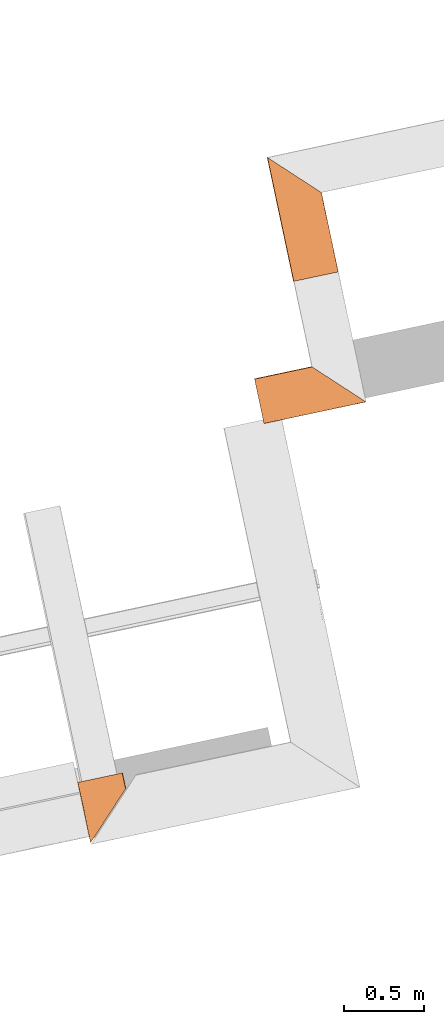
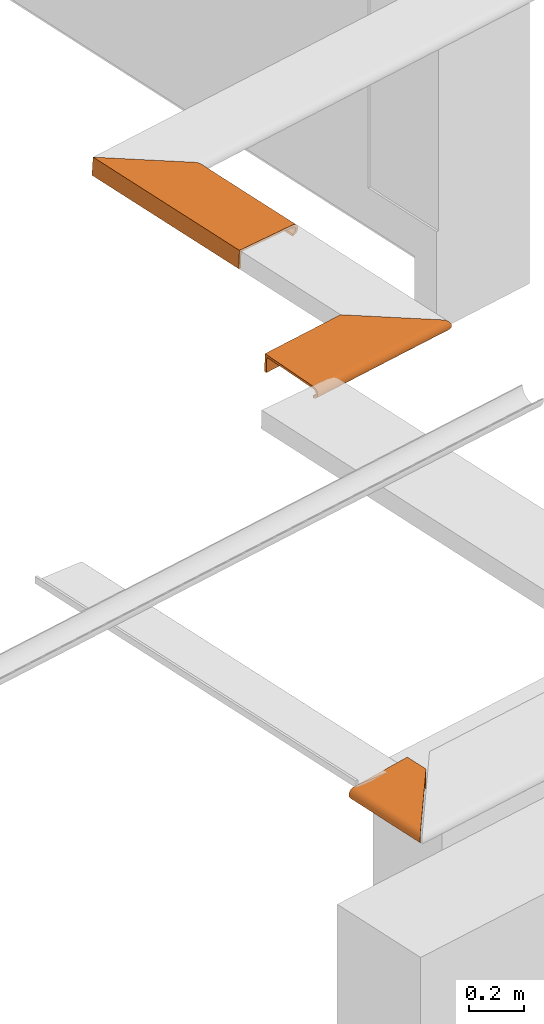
# One storey, part 21 of 22: 3 proxies.
"""IFC2X3 building model written with IfcOpenShell, lengths in centimetres."""

from ifc_helpers import new_model, entity, si_unit, converted_unit, derived_unit, direction, frame, origin, place, context, subcontext, project, spatial, faceted_brep, type_object, element, save


model = new_model("IFC2X3")

# Units and contexts
model_context = context("Model", 3, precision=0.001, world=origin(), true_north=direction((6.12303176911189e-17, 1.0)))
body_context = subcontext(model_context, "Body", "Model", "MODEL_VIEW")
ifc_project = project(units=[si_unit("LENGTHUNIT", "METRE", prefix="CENTI"), si_unit("AREAUNIT", "SQUARE_METRE"), si_unit("VOLUMEUNIT", "CUBIC_METRE"), converted_unit("PLANEANGLEUNIT", "DEGREE", entity("IfcRatioMeasure", 0.0174532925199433), si_unit("PLANEANGLEUNIT", "RADIAN"), dimensions=[0, 0, 0, 0, 0, 0, 0]), si_unit("MASSUNIT", "GRAM", prefix="KILO"), derived_unit("MASSDENSITYUNIT", [(si_unit("MASSUNIT", "GRAM", prefix="KILO"), 1), (si_unit("LENGTHUNIT", "METRE"), -3)]), derived_unit("IONCONCENTRATIONUNIT", [(si_unit("MASSUNIT", "GRAM", prefix="KILO"), 1), (si_unit("LENGTHUNIT", "METRE"), -3)]), derived_unit("MOMENTOFINERTIAUNIT", [(si_unit("LENGTHUNIT", "METRE"), 4)]), si_unit("TIMEUNIT", "SECOND"), si_unit("FREQUENCYUNIT", "HERTZ"), si_unit("THERMODYNAMICTEMPERATUREUNIT", "DEGREE_CELSIUS"), derived_unit("THERMALTRANSMITTANCEUNIT", [(si_unit("MASSUNIT", "GRAM", prefix="KILO"), 1), (si_unit("THERMODYNAMICTEMPERATUREUNIT", "KELVIN"), -1), (si_unit("TIMEUNIT", "SECOND"), -3)]), derived_unit("THERMALCONDUCTANCEUNIT", [(si_unit("MASSUNIT", "GRAM", prefix="KILO"), 1), (si_unit("THERMODYNAMICTEMPERATUREUNIT", "KELVIN"), -1), (si_unit("TIMEUNIT", "SECOND"), -3), (si_unit("LENGTHUNIT", "METRE"), 1)]), derived_unit("VOLUMETRICFLOWRATEUNIT", [(si_unit("LENGTHUNIT", "METRE"), 3), (si_unit("TIMEUNIT", "SECOND"), -1)]), derived_unit("MASSFLOWRATEUNIT", [(si_unit("MASSUNIT", "GRAM", prefix="KILO"), 1), (si_unit("TIMEUNIT", "SECOND"), -1)]), derived_unit("ROTATIONALFREQUENCYUNIT", [(si_unit("TIMEUNIT", "SECOND"), -1)]), si_unit("ELECTRICCURRENTUNIT", "AMPERE"), si_unit("ELECTRICVOLTAGEUNIT", "VOLT"), si_unit("POWERUNIT", "WATT"), si_unit("FORCEUNIT", "NEWTON", prefix="KILO"), si_unit("ILLUMINANCEUNIT", "LUX"), si_unit("LUMINOUSFLUXUNIT", "LUMEN"), si_unit("LUMINOUSINTENSITYUNIT", "CANDELA"), derived_unit("USERDEFINED", [(si_unit("MASSUNIT", "GRAM", prefix="KILO"), -1), (si_unit("LENGTHUNIT", "METRE"), -2), (si_unit("TIMEUNIT", "SECOND"), 3), (si_unit("LUMINOUSFLUXUNIT", "LUMEN"), 1)]), derived_unit("USERDEFINED", [(si_unit("MASSUNIT", "GRAM", prefix="KILO"), 1), (si_unit("TIMEUNIT", "SECOND"), -3), (si_unit("LENGTHUNIT", "METRE"), 3), (si_unit("ELECTRICCURRENTUNIT", "AMPERE"), -2)]), derived_unit("SOUNDPOWERUNIT", [(si_unit("MASSUNIT", "GRAM", prefix="KILO"), 1), (si_unit("TIMEUNIT", "SECOND"), -3), (si_unit("LENGTHUNIT", "METRE"), 2)]), derived_unit("SOUNDPRESSUREUNIT", [(si_unit("MASSUNIT", "GRAM", prefix="KILO"), 1), (si_unit("LENGTHUNIT", "METRE"), -1), (si_unit("TIMEUNIT", "SECOND"), -2)]), derived_unit("LINEARVELOCITYUNIT", [(si_unit("LENGTHUNIT", "METRE"), 1), (si_unit("TIMEUNIT", "SECOND"), -1)]), si_unit("PRESSUREUNIT", "PASCAL"), derived_unit("USERDEFINED", [(si_unit("MASSUNIT", "GRAM", prefix="KILO"), 1), (si_unit("LENGTHUNIT", "METRE"), -2), (si_unit("TIMEUNIT", "SECOND"), -2)]), derived_unit("LINEARFORCEUNIT", [(si_unit("MASSUNIT", "GRAM", prefix="KILO"), 1), (si_unit("TIMEUNIT", "SECOND"), -2)]), derived_unit("PLANARFORCEUNIT", [(si_unit("MASSUNIT", "GRAM", prefix="KILO"), 1), (si_unit("LENGTHUNIT", "METRE"), -1), (si_unit("TIMEUNIT", "SECOND"), -2)]), derived_unit("SPECIFICHEATCAPACITYUNIT", [(si_unit("THERMODYNAMICTEMPERATUREUNIT", "KELVIN"), -1), (si_unit("LENGTHUNIT", "METRE"), 2), (si_unit("TIMEUNIT", "SECOND"), -2)]), derived_unit("HEATINGVALUEUNIT", [(si_unit("LENGTHUNIT", "METRE"), 2), (si_unit("TIMEUNIT", "SECOND"), -2)]), derived_unit("VAPORPERMEABILITYUNIT", [(si_unit("LENGTHUNIT", "METRE"), -1), (si_unit("TIMEUNIT", "SECOND"), 1)]), derived_unit("DYNAMICVISCOSITYUNIT", [(si_unit("MASSUNIT", "GRAM", prefix="KILO"), 1), (si_unit("TIMEUNIT", "SECOND"), -1), (si_unit("LENGTHUNIT", "METRE"), -1)]), derived_unit("THERMALEXPANSIONCOEFFICIENTUNIT", [(si_unit("THERMODYNAMICTEMPERATUREUNIT", "KELVIN"), -1)]), derived_unit("MODULUSOFELASTICITYUNIT", [(si_unit("MASSUNIT", "GRAM", prefix="KILO"), 1), (si_unit("LENGTHUNIT", "METRE"), -1), (si_unit("TIMEUNIT", "SECOND"), -2)]), derived_unit("ISOTHERMALMOISTURECAPACITYUNIT", [(si_unit("LENGTHUNIT", "METRE"), 3), (si_unit("MASSUNIT", "GRAM", prefix="KILO"), -1)]), derived_unit("MOISTUREDIFFUSIVITYUNIT", [(si_unit("TIMEUNIT", "SECOND"), -1), (si_unit("LENGTHUNIT", "METRE"), 2)])], contexts=[model_context])

# Site, building, storey
site_placement = place(None, frame((14083.8920177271, -6853.25409548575, 6900.0), z_axis=(0.0, 0.0, 1.0), x_axis=(0.978188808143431, 0.207717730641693, 0.0)))
site = spatial("IfcSite", under=ifc_project, at=site_placement, Name="Surface", CompositionType="ELEMENT")
building_placement = place(site_placement, origin())
building = spatial("IfcBuilding", under=site, at=building_placement, CompositionType="ELEMENT")
storey_placement = place(building_placement, frame((0.0, 0.0, -17.0)))
storey = spatial("IfcBuildingStorey", under=building, at=storey_placement, Name="Rez de chaussée (SD)", CompositionType="ELEMENT", Elevation=-16.9999999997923)

# Proxies
building_element_proxy_type_1 = type_object("IfcBuildingElementProxyType", Name="5035191", PredefinedType="NOTDEFINED")
proxy_1_placement = place(storey_placement, frame((-6412.95504961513, 14554.9918981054, 335.37614245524)))
element("IfcBuildingElementProxy", 1, at=proxy_1_placement, inside=storey, type_object=building_element_proxy_type_1, Name="5035191", context=body_context, shape_type="Brep", body=[
    faceted_brep([(0.451911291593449, 0.450635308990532, 5.79784103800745), (0.223355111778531, 0.222079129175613, 5.18653976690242), (0.160803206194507, 0.15952722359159, 4.53691338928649), (0.268518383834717, 0.267242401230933, 3.89323286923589), (0.539160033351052, 0.537884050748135, 3.29936397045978), (0.954284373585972, 0.953008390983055, 2.79577787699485), (1.48560136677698, 1.48432538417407, 2.41679314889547), (2.0969026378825, 2.09562665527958, 2.18823696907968), (2.74652901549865, 2.7452530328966, 2.12568506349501), (2.71162951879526, 2.71035353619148, 3.12507589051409), (2.32185369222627, 2.32057770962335, 3.16260703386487), (1.95507292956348, 1.95379694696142, 3.29974074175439), (1.636282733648, 1.63500675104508, 3.52713157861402), (1.3872081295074, 1.38593214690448, 3.82928323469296), (1.2248231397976, 1.22354715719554, 4.18560457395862), (1.16019403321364, 1.15891805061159, 4.57181288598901), (1.19772517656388, 1.19644919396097, 4.96158871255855), (1.33485888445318, 1.33358290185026, 5.32836947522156), (1.56224972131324, 1.56097373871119, 5.64715967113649), (1.86440137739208, 1.86312539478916, 5.89623427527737), (2.22072271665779, 2.21944673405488, 6.05861926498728), (2.60693102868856, 2.60565504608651, 6.12324837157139), (27.591701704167, 27.590425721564, 6.99573578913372), (27.8359981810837, 27.8347221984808, 0.0), (28.8353890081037, 28.8341130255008, 0.0348994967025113), (28.5910925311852, 28.5898165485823, 7.03063528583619), (28.5561930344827, 28.5549170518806, 8.03002611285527), (2.57203153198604, 2.57075554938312, 7.12263919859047), (1.92835101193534, 1.92707502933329, 7.01492402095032), (1.33448211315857, 1.33320613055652, 6.74428237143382), (0.830896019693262, 0.829620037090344, 6.32915803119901), (1.40955740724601, 38.6405545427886, 2.45893864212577), (0.897909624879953, 38.6405545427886, 2.85002193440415), (0.503139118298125, 38.6405545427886, 3.35883398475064), (0.251443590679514, 38.6405545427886, 3.95161287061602), (0.15952722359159, 38.6405545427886, 4.58902399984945), (0.233491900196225, 38.6405545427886, 5.22877007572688), (0.468431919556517, 38.6405545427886, 5.82839777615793), (0.848759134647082, 38.6405545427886, 6.34811491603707), (1.3492369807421, 38.6405545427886, 6.75343115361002), (1.93665296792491, 38.6405545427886, 7.01744643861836), (2.57203153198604, 38.6405545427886, 7.12263919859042), (28.5561930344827, 38.6405545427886, 8.03002611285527), (28.5910925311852, 38.6405545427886, 7.03063528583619), (28.8353890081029, 38.6405545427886, 0.0348994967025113), (27.8359981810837, 38.6405545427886, 0.0), (27.5917017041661, 38.6405545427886, 6.99573578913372), (2.60693102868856, 38.6405545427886, 6.12324837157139), (2.22625760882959, 38.6405545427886, 6.0602997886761), (1.87424065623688, 38.6405545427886, 5.90232988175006), (1.57416646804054, 38.6405545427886, 5.65979142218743), (1.34588923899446, 38.6405545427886, 5.34873372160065), (1.20451090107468, 38.6405545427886, 4.98973848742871), (1.15938357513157, 38.6405545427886, 4.60655833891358), (1.21349110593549, 38.6405545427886, 4.22454521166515), (1.36325193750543, 38.6405545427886, 3.86897304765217), (1.59875633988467, 38.6405545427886, 3.56336573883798), (1.90442226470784, 38.6405545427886, 3.32794093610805), (2.26002641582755, 38.6405545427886, 3.17827266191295), (2.64065859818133, 38.6405545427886, 3.12446845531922), (2.67639451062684, 38.6405545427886, 3.12425976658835), (2.71162951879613, 38.6405545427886, 3.12507589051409), (2.74652901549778, 38.6405545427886, 2.12568506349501), (2.69366986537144, 38.6405545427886, 2.12439867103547), (2.64001679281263, 38.6405545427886, 2.12453784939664), (2.00412990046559, 38.6405545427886, 2.21153327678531), (2.60693102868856, 20.6231047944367, 6.12324837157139), (2.57203153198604, 21.182032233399, 7.12263919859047), (1.90226884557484, 20.2964491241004, 7.00679380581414), (1.48994875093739, 19.8526850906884, 6.83383717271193), (0.331572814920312, 20.014881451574, 5.53618076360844), (2.13256063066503, 20.7409923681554, 2.18027866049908), (2.74652901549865, 32.6405545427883, 2.12568506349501), (0.562490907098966, 19.2374973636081, 5.98558577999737), (1.08589192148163, 20.2338014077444, 6.56695627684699), (0.198523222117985, 19.7088822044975, 5.065381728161), (0.184874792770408, 20.0790372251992, 4.26734633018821), (0.684072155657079, 20.4770780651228, 3.09166322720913), (1.0080000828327, 20.1879797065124, 2.74712357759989), (1.69884398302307, 21.1665476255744, 2.31601089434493), (0.300586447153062, 19.8104723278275, 3.79557089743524), (2.71162951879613, 32.6405545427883, 3.12507589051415), (2.71162951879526, 17.6754540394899, 3.12507589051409), (2.41973681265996, 21.7889193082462, 3.14341268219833), (2.07739222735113, 21.0285997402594, 3.2416259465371), (1.47113734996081, 20.8653767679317, 3.70856593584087), (1.74398845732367, 20.8017833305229, 3.4357847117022), (1.27689150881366, 20.4603160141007, 4.04192394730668), (2.31949910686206, 23.7731076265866, 6.08517163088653), (1.26360932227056, 20.857502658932, 5.17380073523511), (1.1741035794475, 20.8607749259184, 4.41380484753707), (1.71637270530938, 20.8613372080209, 5.79074916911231), (1.16957572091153, 20.3080224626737, 4.79960541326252), (1.4499847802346, 20.3443066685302, 5.51163292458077), (2.04514872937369, 20.5151780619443, 5.99268047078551)], [[[0, 1, 2, 3, 4, 5, 6, 7, 8, 9, 10, 11, 12, 13, 14, 15, 16, 17, 18, 19, 20, 21, 22, 23, 24, 25, 26, 27, 28, 29, 30]], [[31, 32, 33, 34, 35, 36, 37, 38, 39, 40, 41, 42, 43, 44, 45, 46, 47, 48, 49, 50, 51, 52, 53, 54, 55, 56, 57, 58, 59, 60, 61, 62, 63, 64, 65]], [[22, 21, 66, 47, 46]], [[26, 25, 24, 44, 43, 42]], [[26, 42, 41, 67, 27]], [[67, 40, 68]], [[69, 40, 39]], [[37, 36, 70]], [[8, 71, 72]], [[38, 37, 73]], [[40, 69, 68]], [[74, 39, 38]], [[67, 68, 28]], [[70, 75, 1]], [[74, 69, 39]], [[41, 40, 67]], [[0, 30, 73]], [[73, 70, 0]], [[36, 35, 75]], [[37, 70, 73]], [[74, 38, 73]], [[0, 70, 1]], [[74, 30, 29]], [[75, 35, 76]], [[1, 75, 2]], [[73, 30, 74]], [[35, 34, 76]], [[77, 33, 32]], [[27, 67, 28]], [[28, 68, 69]], [[5, 77, 78]], [[64, 63, 72]], [[77, 32, 78]], [[71, 64, 72]], [[32, 31, 78]], [[79, 31, 65]], [[80, 77, 4]], [[78, 31, 79]], [[72, 63, 62]], [[3, 80, 4]], [[5, 4, 77]], [[29, 28, 69]], [[76, 80, 3]], [[79, 65, 71]], [[3, 2, 76]], [[70, 36, 75]], [[8, 7, 71]], [[75, 76, 2]], [[79, 7, 6]], [[34, 33, 80]], [[78, 6, 5]], [[7, 79, 71]], [[76, 34, 80]], [[80, 33, 77]], [[78, 79, 6]], [[64, 71, 65]], [[69, 74, 29]], [[8, 72, 62, 61, 81, 82, 9]], [[10, 9, 83]], [[58, 84, 83]], [[85, 86, 56]], [[87, 13, 85]], [[66, 21, 88, 47]], [[11, 86, 12]], [[11, 10, 84]], [[82, 81, 83, 9]], [[87, 14, 13]], [[61, 60, 81]], [[60, 59, 81]], [[17, 16, 89]], [[90, 54, 53]], [[19, 18, 91]], [[81, 59, 83]], [[12, 86, 85]], [[58, 57, 84]], [[86, 57, 56]], [[49, 91, 50]], [[56, 55, 85]], [[51, 89, 52]], [[55, 54, 87]], [[15, 14, 90]], [[92, 16, 15]], [[83, 84, 10]], [[17, 89, 93]], [[94, 19, 91]], [[58, 83, 59]], [[19, 94, 20]], [[47, 88, 48]], [[85, 55, 87]], [[18, 17, 93]], [[11, 84, 86]], [[48, 88, 94]], [[13, 12, 85]], [[87, 54, 90]], [[90, 53, 92]], [[52, 92, 53]], [[89, 51, 93]], [[14, 87, 90]], [[16, 92, 89]], [[51, 50, 93]], [[18, 93, 91]], [[49, 94, 91]], [[94, 49, 48]], [[91, 93, 50]], [[21, 20, 88]], [[89, 92, 52]], [[15, 90, 92]], [[94, 88, 20]], [[84, 57, 86]], [[23, 22, 46, 45]], [[24, 23, 45, 44]]]),
])
building_element_proxy_type_2 = type_object("IfcBuildingElementProxyType", Name="5035475", PredefinedType="NOTDEFINED")
proxy_2_placement = place(storey_placement, frame((-6216.50677757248, 14871.0604687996, 335.37614245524)))
element("IfcBuildingElementProxy", 2, at=proxy_2_placement, inside=storey, type_object=building_element_proxy_type_2, Name="5035475", context=body_context, shape_type="Brep", body=[
    faceted_brep([(26.1589944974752, 0.0, 3.12425976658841), (26.1237594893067, 0.0, 3.12507589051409), (26.0888599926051, 0.0, 2.12568506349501), (26.1417191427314, 0.0, 2.12439867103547), (26.1953722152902, 0.0, 2.12453784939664), (26.8312591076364, 0.0, 2.21153327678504), (27.4258316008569, 0.0, 2.45893864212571), (27.9374793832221, 0.0, 2.85002193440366), (28.3322498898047, 0.0, 3.35883398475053), (28.5839454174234, 0.0, 3.95161287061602), (28.6758617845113, 0.0, 4.58902399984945), (28.6018971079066, 0.0, 5.2287700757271), (28.3669570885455, 0.0, 5.82839777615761), (27.9866298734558, 0.0, 6.34811491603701), (27.4861520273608, 0.0, 6.75343115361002), (26.898736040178, 0.0, 7.01744643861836), (26.2633574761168, 0.0, 7.12263919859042), (0.279195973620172, 0.0, 8.03002611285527), (0.24429647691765, 0.0, 7.03063528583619), (0.0, 0.0, 0.0348994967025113), (0.999390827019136, 0.0, 0.0), (1.24368730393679, 0.0, 6.99573578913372), (26.2284579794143, 0.0, 6.12324837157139), (26.6091313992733, 0.0, 6.0602997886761), (26.961148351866, 0.0, 5.90232988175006), (27.2612225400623, 0.0, 5.65979142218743), (27.4894997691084, 0.0, 5.34873372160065), (27.6308781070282, 0.0, 4.98973848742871), (27.6760054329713, 0.0, 4.60655833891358), (27.6218979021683, 0.0, 4.22454521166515), (27.4721370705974, 0.0, 3.86897304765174), (27.2366326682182, 0.0, 3.56336573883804), (26.930966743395, 0.0, 3.32794093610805), (26.5753625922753, 0.0, 3.17827266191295), (26.1947304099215, 0.0, 3.12446845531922), (0.24429647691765, 78.9492620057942, 7.03063528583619), (0.279195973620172, 78.9143625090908, 8.03002611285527), (26.2633574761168, 52.930201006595, 7.12263919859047), (26.9070379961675, 52.2865204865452, 7.01492402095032), (27.5009068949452, 51.6926515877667, 6.74428237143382), (28.0044929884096, 51.1890654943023, 6.32915803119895), (28.3834777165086, 50.8100807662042, 5.79784103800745), (28.6120338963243, 50.5815245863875, 5.18653976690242), (28.6745858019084, 50.5189726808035, 4.53691338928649), (28.5668706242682, 50.6266878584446, 3.89323286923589), (28.2962289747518, 50.89732950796, 3.29936397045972), (27.8811046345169, 51.312453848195, 2.79577787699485), (27.3497876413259, 51.843770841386, 2.41679314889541), (26.7384863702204, 52.4550721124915, 2.18823696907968), (26.5104292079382, 52.683129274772, 2.16627756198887), (26.2996446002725, 52.8939138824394, 2.14598131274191), (26.1942522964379, 52.9993061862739, 2.13583318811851), (26.1415561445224, 53.0520023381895, 2.13075912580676), (26.0888599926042, 53.1046984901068, 2.12568506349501), (26.1237594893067, 53.0697989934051, 3.12507589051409), (26.1870022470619, 53.0065562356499, 3.13116547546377), (26.2502450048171, 52.9433134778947, 3.1372550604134), (26.3767305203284, 52.8168279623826, 3.14943423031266), (26.5135353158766, 52.6800231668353, 3.16260703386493), (26.8803160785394, 52.3132424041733, 3.29974074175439), (27.1991062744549, 51.994452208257, 3.52713157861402), (27.4481808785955, 51.7453776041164, 3.82928323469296), (27.6105658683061, 51.5829926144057, 4.18560457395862), (27.6751949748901, 51.5183635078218, 4.57181288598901), (27.637663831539, 51.5558946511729, 4.96158871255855), (27.5005301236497, 51.6930283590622, 5.32836947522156), (27.2731392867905, 51.9204191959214, 5.64715967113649), (26.9709876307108, 52.2225708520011, 5.89623427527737), (26.6146662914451, 52.5788921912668, 6.05861926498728), (26.2284579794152, 52.9651005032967, 6.12324837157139), (1.24368730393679, 77.9498711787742, 6.99573578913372), (0.999390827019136, 78.1941676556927, 0.0), (0.0, 79.193558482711, 0.0348994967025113), (27.1190163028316, 19.0199723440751, 5.79074916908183), (27.1270818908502, 37.1836040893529, 5.78418370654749), (27.385404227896, 25.786280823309, 5.51163292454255), (26.7904625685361, 26.2354148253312, 5.99258069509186), (27.5717796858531, 18.9441784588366, 5.17380073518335), (27.540147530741, 36.8655953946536, 4.00014437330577), (27.364251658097, 25.4433574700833, 3.70856593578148), (27.0436072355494, 37.0267590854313, 3.40046022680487), (27.6553365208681, 30.8147915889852, 4.37539485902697), (27.5584974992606, 18.9306957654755, 4.04192394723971), (27.6612854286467, 13.7674537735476, 4.41380484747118), (27.0914005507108, 18.9306485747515, 3.43578471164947), (26.7579967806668, 25.643680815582, 3.24162594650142), (27.6658132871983, 25.4950456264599, 4.79960541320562), (26.5173145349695, 18.0716430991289, 6.08483957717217), (26.5140353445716, 35.4289072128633, 6.08560169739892), (26.2284579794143, 25.9184740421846, 6.12324837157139), (26.4400575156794, 35.47030086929, 3.14756772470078), (27.5804769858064, 36.9193188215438, 5.15118187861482), (26.4407716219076, 17.8065606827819, 3.14769555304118), (26.1237594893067, 27.0466264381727, 3.12507589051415), (26.1237594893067, 53.0, 3.12507589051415), (26.0888599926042, 53.0, 2.12568506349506), (26.0888599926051, 34.9170446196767, 2.12568506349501), (26.5785486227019, 21.6808399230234, 2.15676631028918), (27.6943009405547, 23.0475970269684, 2.63793645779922), (28.1513168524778, 24.7839974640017, 3.0916632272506), (28.6505142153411, 24.7422850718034, 4.26734633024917), (28.4772649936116, 23.0449125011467, 3.64708492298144), (26.7411214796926, 19.8157878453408, 7.05947742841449), (27.7494970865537, 23.0913663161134, 6.56695627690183), (27.1365450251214, 25.1305757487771, 2.31601089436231), (27.2009811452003, 26.0343788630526, 6.90443328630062), (28.6595656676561, 21.8007253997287, 4.91128868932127), (28.5160100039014, 26.1953141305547, 5.50442461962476), (28.1935987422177, 25.328268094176, 6.10055437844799), (26.2633574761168, 26.4651005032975, 7.12263919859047)], [[[0, 1, 2, 3, 4, 5, 6, 7, 8, 9, 10, 11, 12, 13, 14, 15, 16, 17, 18, 19, 20, 21, 22, 23, 24, 25, 26, 27, 28, 29, 30, 31, 32, 33, 34]], [[35, 36, 37, 38, 39, 40, 41, 42, 43, 44, 45, 46, 47, 48, 49, 50, 51, 52, 53, 54, 55, 56, 57, 58, 59, 60, 61, 62, 63, 64, 65, 66, 67, 68, 69, 70, 71, 72]], [[73, 25, 24]], [[73, 74, 75]], [[67, 74, 76]], [[76, 68, 67]], [[26, 77, 27]], [[78, 61, 79]], [[26, 25, 75]], [[60, 80, 79]], [[73, 75, 25]], [[81, 82, 83]], [[84, 80, 85]], [[28, 27, 86]], [[83, 29, 28]], [[76, 87, 88]], [[88, 89, 69]], [[68, 76, 88]], [[90, 58, 57, 56, 55]], [[63, 86, 64]], [[65, 75, 66]], [[22, 87, 23]], [[77, 75, 91]], [[76, 74, 73]], [[92, 85, 90]], [[62, 81, 63]], [[62, 61, 78]], [[31, 30, 79]], [[77, 26, 75]], [[91, 64, 86]], [[31, 79, 84]], [[28, 86, 83]], [[0, 34, 93]], [[74, 66, 75]], [[33, 32, 85]], [[30, 29, 82]], [[73, 24, 76]], [[77, 86, 27]], [[81, 86, 63]], [[30, 82, 79]], [[93, 1, 0]], [[81, 78, 82]], [[60, 79, 61]], [[67, 66, 74]], [[91, 65, 64]], [[79, 80, 84]], [[59, 90, 85]], [[84, 32, 31]], [[92, 93, 34]], [[76, 24, 23]], [[93, 55, 54, 94]], [[80, 60, 59]], [[84, 85, 32]], [[80, 59, 85]], [[92, 33, 85]], [[65, 91, 75]], [[77, 91, 86]], [[62, 78, 81]], [[82, 78, 79]], [[29, 83, 82]], [[81, 83, 86]], [[68, 88, 69]], [[89, 88, 87]], [[89, 87, 22]], [[87, 76, 23]], [[33, 92, 34]], [[55, 93, 90]], [[59, 58, 90]], [[92, 90, 93]], [[2, 1, 93, 94, 54, 53, 95, 96]], [[3, 97, 4]], [[97, 96, 49]], [[98, 47, 46]], [[3, 2, 96]], [[46, 99, 98]], [[96, 95, 53, 52, 51, 50, 49]], [[44, 100, 101]], [[102, 16, 15]], [[45, 99, 46]], [[40, 39, 103]], [[48, 47, 104]], [[39, 38, 105]], [[101, 45, 44]], [[6, 98, 7]], [[106, 43, 42]], [[97, 3, 96]], [[11, 10, 106]], [[104, 6, 5]], [[99, 7, 98]], [[12, 107, 108]], [[99, 8, 7]], [[8, 101, 9]], [[101, 100, 9]], [[38, 102, 105]], [[97, 48, 104]], [[97, 49, 48]], [[108, 107, 41]], [[42, 107, 106]], [[38, 37, 109]], [[103, 39, 105]], [[15, 14, 105]], [[104, 5, 97]], [[12, 11, 107]], [[40, 108, 41]], [[103, 108, 40]], [[9, 100, 10]], [[6, 104, 98]], [[11, 106, 107]], [[41, 107, 42]], [[105, 14, 103]], [[8, 99, 101]], [[108, 13, 12]], [[10, 100, 106]], [[14, 13, 103]], [[103, 13, 108]], [[101, 99, 45]], [[105, 102, 15]], [[98, 104, 47]], [[106, 100, 43]], [[100, 44, 43]], [[4, 97, 5]], [[109, 102, 38]], [[16, 102, 109]], [[17, 16, 109, 37, 36]], [[18, 17, 36, 35, 72, 19]], [[21, 70, 69, 89, 22]], [[21, 20, 71, 70]], [[20, 19, 72, 71]]]),
])
building_element_proxy_type_3 = type_object("IfcBuildingElementProxyType", Name="5118381", PredefinedType="NOTDEFINED")
proxy_3_placement = place(storey_placement, frame((-6252.81321908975, 14788.0255141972, 335.37614245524)))
element("IfcBuildingElementProxy", 3, at=proxy_3_placement, inside=storey, type_object=building_element_proxy_type_3, Name="5118381", context=body_context, shape_type="Brep", body=[
    faceted_brep([(64.7597182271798, 0.451911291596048, 5.79784103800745), (64.9882744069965, 0.223355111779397, 5.18653976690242), (65.0508263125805, 0.160803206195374, 4.53691338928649), (64.9431111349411, 0.268518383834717, 3.89323286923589), (64.6724694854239, 0.539160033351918, 3.29936397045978), (64.257345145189, 0.954284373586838, 2.79577787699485), (63.726028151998, 1.48560136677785, 2.41679314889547), (63.1147268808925, 2.09690263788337, 2.18823696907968), (62.4651005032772, 2.74652901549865, 2.12568506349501), (62.4999999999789, 2.71162951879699, 3.12507589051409), (62.8897758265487, 2.32185369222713, 3.16260703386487), (63.2565565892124, 1.95507292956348, 3.29974074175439), (63.575346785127, 1.63628273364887, 3.52713157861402), (63.8244213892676, 1.38720812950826, 3.82928323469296), (63.9868063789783, 1.2248231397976, 4.18560457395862), (64.0514354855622, 1.16019403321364, 4.57181288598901), (64.0139043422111, 1.19772517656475, 4.96158871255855), (63.8767706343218, 1.33485888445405, 5.32836947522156), (63.6493797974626, 1.56224972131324, 5.64715967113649), (63.3472281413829, 1.86440137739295, 5.89623427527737), (62.9909068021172, 2.22072271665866, 6.05861926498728), (62.6046984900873, 2.60693102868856, 6.12324837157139), (37.619927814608, 27.5917017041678, 6.99573578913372), (37.3756313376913, 27.8359981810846, 0.0), (36.376240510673, 28.8353890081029, 0.0348994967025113), (36.6205369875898, 28.5910925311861, 7.03063528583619), (36.6554364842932, 28.5561930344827, 8.03002611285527), (62.6395979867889, 2.57203153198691, 7.12263919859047), (63.2832785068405, 1.92835101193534, 7.01492402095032), (63.8771474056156, 1.3344821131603, 6.74428237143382), (64.3807334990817, 0.830896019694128, 6.32915803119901), (0.0, 27.8359981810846, 0.0), (0.0, 27.5917017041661, 6.99573578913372), (0.0, 2.60693102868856, 6.12324837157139), (0.0, 2.22625760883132, 6.06029978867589), (0.0, 1.87424065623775, 5.90232988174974), (0.0, 1.57416646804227, 5.65979142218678), (0.0, 1.34588923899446, 5.34873372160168), (0.0, 1.20451090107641, 4.98973848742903), (0.0, 1.15938357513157, 4.60655833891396), (0.0, 1.21349110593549, 4.22454521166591), (0.0, 1.36325193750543, 3.86897304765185), (0.0, 1.59875633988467, 3.56336573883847), (0.0, 1.90442226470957, 3.32794093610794), (0.0, 2.26002641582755, 3.17827266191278), (0.0, 2.64065859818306, 3.12446845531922), (0.0, 2.67639451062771, 3.12425976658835), (0.0, 2.71162951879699, 3.12507589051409), (0.0, 2.74652901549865, 2.12568506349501), (0.0, 2.69366986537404, 2.12439867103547), (0.0, 2.6400167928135, 2.12453784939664), (0.0, 2.00412990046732, 2.21153327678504), (0.0, 1.40955740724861, 2.45893864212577), (0.0, 0.897909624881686, 2.85002193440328), (0.0, 0.503139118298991, 3.35883398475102), (0.0, 0.251443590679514, 3.95161287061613), (0.0, 0.15952722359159, 4.58902399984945), (0.0, 0.233491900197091, 5.22877007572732), (0.0, 0.468431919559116, 5.82839777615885), (0.0, 0.848759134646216, 6.34811491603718), (0.0, 1.34923698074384, 6.75343115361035), (0.0, 1.93665296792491, 7.01744643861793), (0.0, 2.57203153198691, 7.12263919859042), (0.0, 28.5561930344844, 8.03002611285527), (0.0, 28.5910925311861, 7.03063528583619), (0.0, 28.8353890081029, 0.0348994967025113), (49.0813852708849, 2.60693102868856, 6.12324837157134), (27.0466264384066, 2.60693102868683, 6.12324837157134), (17.4585223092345, 2.57203153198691, 7.12263919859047), (34.9170446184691, 2.57203153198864, 7.12263919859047), (35.9717824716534, 2.05180369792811, 7.04923371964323), (17.8063041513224, 2.02495962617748, 7.04235098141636), (24.2038796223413, 1.63440786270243, 6.9044332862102), (31.813140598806, 0.684072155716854, 3.0916632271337), (46.6588303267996, 0.382537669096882, 3.59147480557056), (24.2078568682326, 0.358124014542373, 3.64708492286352), (32.1237506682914, 0.184874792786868, 4.26734633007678), (32.1031127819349, 0.331572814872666, 5.53618076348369), (29.01416064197, 2.24741320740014, 2.15832241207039), (40.5697989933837, 2.74652901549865, 2.12568506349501), (24.2038331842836, 0.641790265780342, 6.10055437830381), (31.794359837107, 1.08589192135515, 6.56695627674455), (46.818855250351, 0.170691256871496, 4.86275111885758), (31.2192507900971, 1.6988439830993, 2.31601089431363), (24.2781395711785, 0.175823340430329, 4.9112886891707), (46.6002850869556, 0.620419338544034, 6.07089848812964), (17.4585222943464, 2.74652901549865, 2.12568506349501), (46.1805974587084, 1.6140467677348, 6.89517224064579), (24.0686714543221, 1.14108806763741, 2.63793645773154), (46.1815527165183, 1.20056090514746, 2.59385727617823), (27.0466812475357, 2.71162951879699, 3.12507589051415), (40.5697989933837, 2.71162951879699, 3.12507589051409), (49.4077780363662, 2.4689116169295, 3.13629124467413), (33.2579479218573, 2.29167835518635, 6.07842099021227), (33.8082127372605, 2.16289605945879, 3.20867539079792), (49.3280766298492, 2.18341676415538, 3.20164537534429), (33.8082127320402, 2.44775555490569, 3.13915125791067), (15.4330067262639, 2.4439404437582, 3.13969968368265), (49.6707090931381, 1.49983489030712, 3.67248655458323), (31.9621722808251, 1.69852605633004, 5.7760958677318), (42.8953067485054, 1.43561878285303, 5.49171763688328), (18.2161018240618, 1.44998478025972, 5.51163292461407), (42.5568837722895, 1.78333458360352, 3.40649257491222), (16.0682393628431, 2.11810568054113, 3.22518748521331), (19.656934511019, 1.7439884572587, 3.4357847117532), (45.7958722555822, 1.25348491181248, 5.14736323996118), (32.1972742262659, 1.49734048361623, 3.67553368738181), (43.1075520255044, 1.17965053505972, 4.37779688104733), (45.7583109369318, 1.29323481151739, 4.00454951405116), (43.7551439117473, 2.03155029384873, 5.98649655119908), (22.5088570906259, 1.2768915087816, 4.04192394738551), (18.2730033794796, 1.17410357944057, 4.41380484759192), (14.5408208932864, 1.47113734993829, 3.7085659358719), (49.8745324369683, 1.16613997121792, 4.7674521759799), (32.2973872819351, 1.16608307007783, 4.76685799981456), (49.4505374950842, 1.70220263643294, 5.77915234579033), (48.3441242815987, 2.28651001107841, 6.07710477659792), (16.076962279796, 2.3522217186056, 6.09239748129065), (14.5654440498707, 1.16957572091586, 4.79960541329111), (22.197835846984, 1.26360932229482, 5.17380073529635), (21.7343005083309, 2.0451487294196, 5.99268047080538), (14.3568892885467, 1.71637270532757, 5.79074916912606)], [[[0, 1, 2, 3, 4, 5, 6, 7, 8, 9, 10, 11, 12, 13, 14, 15, 16, 17, 18, 19, 20, 21, 22, 23, 24, 25, 26, 27, 28, 29, 30]], [[31, 32, 33, 34, 35, 36, 37, 38, 39, 40, 41, 42, 43, 44, 45, 46, 47, 48, 49, 50, 51, 52, 53, 54, 55, 56, 57, 58, 59, 60, 61, 62, 63, 64, 65]], [[22, 21, 66, 67, 33, 32]], [[23, 22, 32, 31]], [[24, 23, 31, 65]], [[25, 24, 65, 64, 63, 26]], [[26, 63, 62, 68, 69, 27]], [[70, 71, 72]], [[73, 74, 75]], [[76, 74, 3]], [[72, 61, 60]], [[58, 57, 77]], [[7, 78, 79]], [[80, 81, 59]], [[77, 82, 1]], [[81, 60, 59]], [[51, 78, 83]], [[76, 82, 84]], [[77, 57, 84]], [[78, 51, 50]], [[61, 71, 62]], [[85, 0, 30]], [[86, 78, 50]], [[87, 29, 28]], [[80, 85, 81]], [[2, 1, 82]], [[0, 77, 1]], [[81, 30, 29]], [[54, 73, 75]], [[82, 77, 84]], [[58, 80, 59]], [[56, 55, 76]], [[81, 85, 30]], [[73, 54, 53]], [[72, 87, 70]], [[87, 81, 29]], [[88, 53, 52]], [[79, 78, 86]], [[58, 77, 80]], [[49, 86, 50]], [[73, 4, 74]], [[83, 52, 51]], [[77, 0, 85]], [[76, 55, 75]], [[49, 48, 86]], [[74, 76, 75]], [[5, 4, 73]], [[4, 3, 74]], [[55, 54, 75]], [[60, 81, 72]], [[3, 2, 76]], [[7, 83, 78]], [[79, 8, 7]], [[6, 5, 89]], [[83, 7, 6]], [[56, 76, 84]], [[73, 88, 89]], [[57, 56, 84]], [[69, 70, 27]], [[76, 2, 82]], [[83, 6, 89]], [[73, 53, 88]], [[52, 83, 88]], [[77, 85, 80]], [[73, 89, 5]], [[83, 89, 88]], [[28, 27, 70]], [[81, 87, 72]], [[28, 70, 87]], [[71, 61, 72]], [[69, 68, 62, 71]], [[69, 71, 70]], [[9, 8, 79, 86, 48, 47, 90, 91]], [[9, 92, 10]], [[66, 93, 67]], [[94, 95, 96]], [[97, 46, 45]], [[98, 13, 12]], [[99, 100, 101]], [[11, 102, 12]], [[103, 43, 104]], [[90, 96, 91]], [[16, 105, 17]], [[104, 106, 102]], [[107, 15, 14]], [[97, 90, 47]], [[92, 96, 95]], [[14, 108, 107]], [[97, 96, 90]], [[17, 105, 100]], [[12, 102, 98]], [[19, 109, 20]], [[103, 97, 44]], [[102, 94, 104]], [[110, 40, 111]], [[112, 42, 41]], [[104, 43, 42]], [[41, 110, 112]], [[47, 46, 97]], [[16, 15, 113]], [[114, 107, 111]], [[94, 102, 95]], [[18, 17, 100]], [[19, 18, 115]], [[44, 97, 45]], [[106, 108, 98]], [[97, 103, 94]], [[96, 97, 94]], [[100, 115, 18]], [[104, 112, 106]], [[116, 66, 21]], [[34, 33, 117]], [[40, 110, 41]], [[39, 111, 40]], [[39, 38, 118]], [[118, 38, 119]], [[35, 120, 121]], [[36, 101, 37]], [[38, 37, 119]], [[117, 93, 120]], [[121, 36, 35]], [[120, 35, 34]], [[99, 109, 115]], [[95, 11, 10]], [[114, 105, 113]], [[91, 96, 92]], [[107, 113, 15]], [[13, 108, 14]], [[119, 37, 101]], [[120, 109, 99]], [[110, 111, 107]], [[114, 111, 118]], [[119, 101, 100]], [[99, 101, 121]], [[91, 92, 9]], [[95, 10, 92]], [[108, 110, 107]], [[110, 108, 106]], [[105, 119, 100]], [[119, 105, 114]], [[120, 93, 109]], [[116, 109, 93]], [[11, 95, 102]], [[94, 103, 104]], [[103, 44, 43]], [[42, 112, 104]], [[106, 112, 110]], [[39, 118, 111]], [[114, 118, 119]], [[36, 121, 101]], [[99, 121, 120]], [[13, 98, 108]], [[106, 98, 102]], [[16, 113, 105]], [[114, 113, 107]], [[19, 115, 109]], [[99, 115, 100]], [[116, 20, 109]], [[67, 93, 117]], [[67, 117, 33]], [[34, 117, 120]], [[20, 116, 21]], [[116, 93, 66]]]),
])

save(model, "model.ifc")
